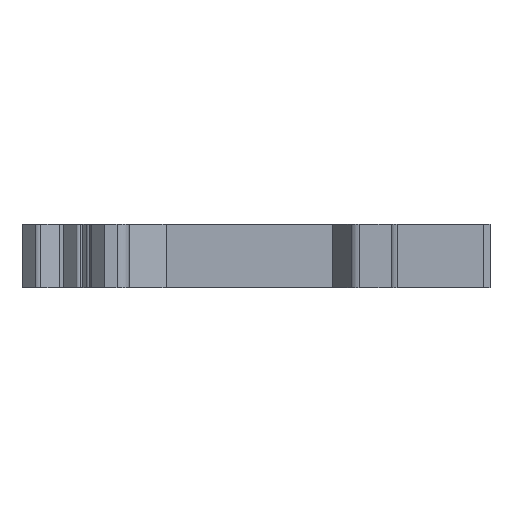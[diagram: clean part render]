
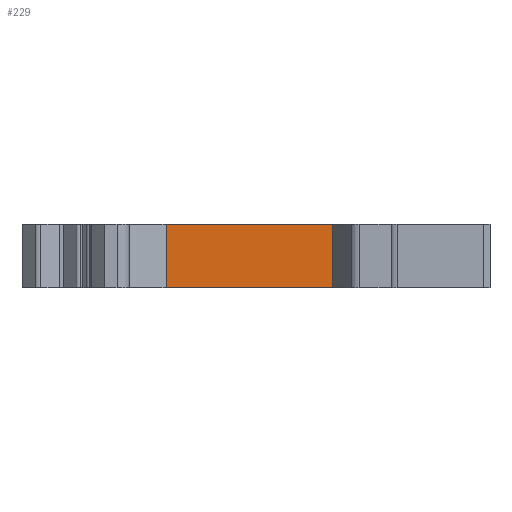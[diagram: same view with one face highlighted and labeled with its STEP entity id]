
A CAD part, left-side view. The second image highlights one B-rep face of the part: STEP entity #229.
In plain terms, the highlighted planar face has unit normal (-1, 0, 0).
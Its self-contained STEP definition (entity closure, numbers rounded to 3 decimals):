
#229=ADVANCED_FACE('',(#417),#321,.T.);
#321=PLANE('',#2304);
#417=FACE_OUTER_BOUND('',#521,.T.);
#521=EDGE_LOOP('',(#796,#797,#798,#799));
#796=ORIENTED_EDGE('',*,*,#1556,.F.);
#797=ORIENTED_EDGE('',*,*,#1555,.F.);
#798=ORIENTED_EDGE('',*,*,#1557,.T.);
#799=ORIENTED_EDGE('',*,*,#1558,.T.);
#1294=VERTEX_POINT('',#3264);
#1295=VERTEX_POINT('',#3266);
#1296=VERTEX_POINT('',#3270);
#1297=VERTEX_POINT('',#3272);
#1555=EDGE_CURVE('',#1295,#1294,#1837,.T.);
#1556=EDGE_CURVE('',#1294,#1296,#1838,.T.);
#1557=EDGE_CURVE('',#1295,#1297,#1839,.T.);
#1558=EDGE_CURVE('',#1297,#1296,#1840,.T.);
#1837=LINE('',#3267,#2103);
#1838=LINE('',#3269,#2104);
#1839=LINE('',#3271,#2105);
#1840=LINE('',#3273,#2106);
#2103=VECTOR('',#2676,1.);
#2104=VECTOR('',#2679,1.);
#2105=VECTOR('',#2680,1.);
#2106=VECTOR('',#2681,1.);
#2304=AXIS2_PLACEMENT_3D('',#3274,#2682,#2683);
#2676=DIRECTION('',(0.,0.,1.));
#2679=DIRECTION('',(0.,-1.,0.));
#2680=DIRECTION('',(0.,-1.,0.));
#2681=DIRECTION('',(0.,0.,1.));
#2682=DIRECTION('',(-1.,0.,0.));
#2683=DIRECTION('',(0.,0.,-1.));
#3264=CARTESIAN_POINT('',(7365.727,2161.535,0.));
#3266=CARTESIAN_POINT('',(7365.727,2161.535,-6.2));
#3267=CARTESIAN_POINT('',(7365.727,2161.535,-6.2));
#3269=CARTESIAN_POINT('',(7365.727,2161.535,0.));
#3270=CARTESIAN_POINT('',(7365.727,2145.235,0.));
#3271=CARTESIAN_POINT('',(7365.727,2161.535,-6.2));
#3272=CARTESIAN_POINT('',(7365.727,2145.235,-6.2));
#3273=CARTESIAN_POINT('',(7365.727,2145.235,-6.2));
#3274=CARTESIAN_POINT('',(7365.727,2161.535,-6.2));
